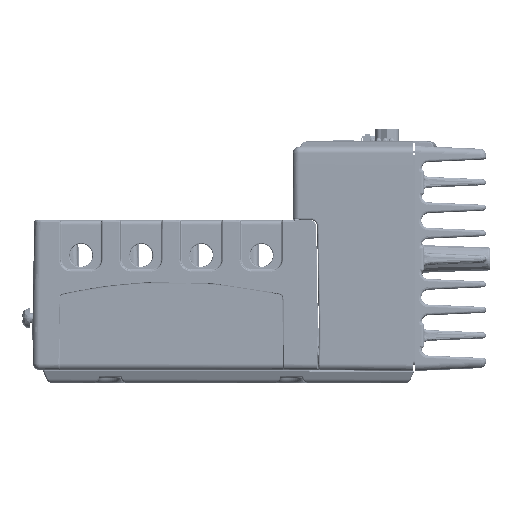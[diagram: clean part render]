
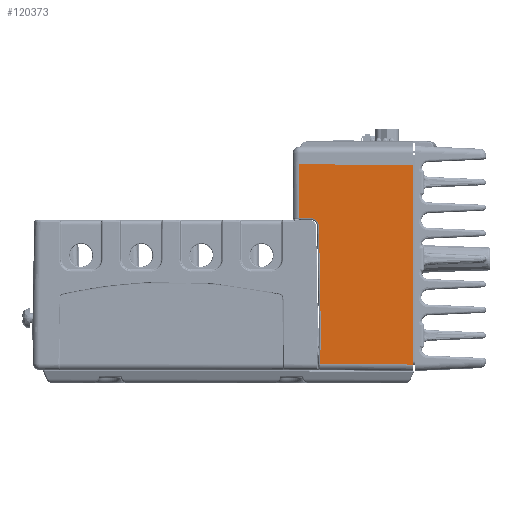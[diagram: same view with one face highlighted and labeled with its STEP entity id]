
A CAD part, left-side view. The second image highlights one B-rep face of the part: STEP entity #120373.
In plain terms, the highlighted planar face has unit normal (-1, 0.009, 0).
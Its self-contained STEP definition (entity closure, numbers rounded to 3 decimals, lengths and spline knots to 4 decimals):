
#3561=CARTESIAN_POINT('',(-1.7191,-1.9761,
2.3507));
#3601=DIRECTION('',(-0.009,-1.,-0.009));
#3602=VECTOR('',#3601,0.1807);
#3603=CARTESIAN_POINT('',(-1.7191,-1.9761,
2.3507));
#3604=LINE('',#3603,#3602);
#3605=DIRECTION('',(0.009,1.,0.009));
#3606=VECTOR('',#3605,1.768);
#3607=CARTESIAN_POINT('',(-1.7345,-3.744,3.1687));
#3608=LINE('',#3607,#3606);
#3609=DIRECTION('',(0.,0.,-1.));
#3610=VECTOR('',#3609,3.0837);
#3611=CARTESIAN_POINT('',(-1.7345,-3.744,3.1687));
#3612=LINE('',#3611,#3610);
#3631=DIRECTION('',(0.,0.,-1.));
#3632=VECTOR('',#3631,0.8334);
#3633=CARTESIAN_POINT('',(-1.7191,-1.9761,
3.1841));
#3634=LINE('',#3633,#3632);
#3691=DIRECTION('',(-0.009,-1.,-0.009));
#3692=VECTOR('',#3691,1.4393);
#3693=CARTESIAN_POINT('',(-1.7219,-2.3048,
0.0976));
#3694=LINE('',#3693,#3692);
#3695=CARTESIAN_POINT('',(-1.7345,-3.744,0.085));
#3819=DIRECTION('',(0.,0.017,-1.));
#3820=VECTOR('',#3819,0.5145);
#3821=CARTESIAN_POINT('',(-1.722,-2.3137,0.612));
#3822=LINE('',#3821,#3820);
#3845=DIRECTION('',(0.,-0.017,-1.));
#3846=VECTOR('',#3845,1.6096);
#3847=CARTESIAN_POINT('',(-1.7218,-2.2857,
2.2214));
#3848=LINE('',#3847,#3846);
#66235=CARTESIAN_POINT('',(-1.7206,-2.1568,
2.3491));
#66236=CARTESIAN_POINT('',(-1.7207,-2.1585,
2.3491));
#66237=CARTESIAN_POINT('',(-1.7207,-2.1619,
2.349));
#66238=CARTESIAN_POINT('',(-1.7207,-2.1671,
2.3486));
#66239=CARTESIAN_POINT('',(-1.7208,-2.1722,
2.3481));
#66240=CARTESIAN_POINT('',(-1.7208,-2.1773,
2.3473));
#66241=CARTESIAN_POINT('',(-1.7209,-2.1823,
2.3464));
#66242=CARTESIAN_POINT('',(-1.7209,-2.1874,
2.3452));
#66243=CARTESIAN_POINT('',(-1.721,-2.1923,
2.3439));
#66244=CARTESIAN_POINT('',(-1.721,-2.1972,
2.3423));
#66245=CARTESIAN_POINT('',(-1.721,-2.2021,
2.3406));
#66246=CARTESIAN_POINT('',(-1.7211,-2.2069,
2.3386));
#66247=CARTESIAN_POINT('',(-1.7211,-2.2116,
2.3365));
#66248=CARTESIAN_POINT('',(-1.7212,-2.2162,
2.3342));
#66249=CARTESIAN_POINT('',(-1.7212,-2.2207,
2.3317));
#66250=CARTESIAN_POINT('',(-1.7212,-2.2251,
2.3291));
#66251=CARTESIAN_POINT('',(-1.7213,-2.2294,
2.3262));
#66252=CARTESIAN_POINT('',(-1.7213,-2.2336,
2.3232));
#66253=CARTESIAN_POINT('',(-1.7214,-2.2376,
2.3201));
#66254=CARTESIAN_POINT('',(-1.7214,-2.2416,
2.3167));
#66255=CARTESIAN_POINT('',(-1.7214,-2.2454,
2.3133));
#66256=CARTESIAN_POINT('',(-1.7215,-2.249,
2.3096));
#66257=CARTESIAN_POINT('',(-1.7215,-2.2525,
2.3059));
#66258=CARTESIAN_POINT('',(-1.7215,-2.2559,
2.302));
#66259=CARTESIAN_POINT('',(-1.7215,-2.2591,
2.2979));
#66260=CARTESIAN_POINT('',(-1.7216,-2.2621,
2.2938));
#66261=CARTESIAN_POINT('',(-1.7216,-2.265,
2.2895));
#66262=CARTESIAN_POINT('',(-1.7216,-2.2677,
2.2851));
#66263=CARTESIAN_POINT('',(-1.7216,-2.2702,
2.2806));
#66264=CARTESIAN_POINT('',(-1.7217,-2.2726,
2.276));
#66265=CARTESIAN_POINT('',(-1.7217,-2.2747,
2.2714));
#66266=CARTESIAN_POINT('',(-1.7217,-2.2767,
2.2666));
#66267=CARTESIAN_POINT('',(-1.7217,-2.2785,
2.2618));
#66268=CARTESIAN_POINT('',(-1.7217,-2.2801,
2.2569));
#66269=CARTESIAN_POINT('',(-1.7217,-2.2815,
2.2519));
#66270=CARTESIAN_POINT('',(-1.7217,-2.2827,
2.2469));
#66271=CARTESIAN_POINT('',(-1.7218,-2.2837,
2.2418));
#66272=CARTESIAN_POINT('',(-1.7218,-2.2845,
2.2368));
#66273=CARTESIAN_POINT('',(-1.7218,-2.2851,
2.2316));
#66274=CARTESIAN_POINT('',(-1.7218,-2.2855,
2.2265));
#66275=CARTESIAN_POINT('',(-1.7218,-2.2856,
2.2231));
#66276=CARTESIAN_POINT('',(-1.7218,-2.2857,
2.2214));
#112077=VERTEX_POINT('',#3695);
#112105=CARTESIAN_POINT('',(-1.7345,-3.744,3.1687));
#112106=VERTEX_POINT('',#112105);
#112127=CARTESIAN_POINT('',(-1.7191,-1.9761,
3.1841));
#112128=VERTEX_POINT('',#112127);
#112640=VERTEX_POINT('',#3561);
#112641=CARTESIAN_POINT('',(-1.7206,-2.1568,
2.3491));
#112642=VERTEX_POINT('',#112641);
#112643=VERTEX_POINT('',#66276);
#112648=CARTESIAN_POINT('',(-1.722,-2.3137,0.612));
#112649=VERTEX_POINT('',#112648);
#112650=CARTESIAN_POINT('',(-1.7219,-2.3048,
0.0976));
#112651=VERTEX_POINT('',#112650);
#120352=CARTESIAN_POINT('',(-1.7345,-3.744,-0.1016));
#120353=DIRECTION('',(1.,-0.009,0.));
#120354=DIRECTION('',(0.,0.,1.));
#120355=AXIS2_PLACEMENT_3D('',#120352,#120353,#120354);
#120356=PLANE('',#120355);
#120357=ORIENTED_EDGE('',*,*,#120343,.F.);
#120359=ORIENTED_EDGE('',*,*,#120358,.F.);
#120361=ORIENTED_EDGE('',*,*,#120360,.F.);
#120362=ORIENTED_EDGE('',*,*,#119410,.T.);
#120364=ORIENTED_EDGE('',*,*,#120363,.F.);
#120366=ORIENTED_EDGE('',*,*,#120365,.F.);
#120368=ORIENTED_EDGE('',*,*,#120367,.F.);
#120370=ORIENTED_EDGE('',*,*,#120369,.F.);
#120371=EDGE_LOOP('',(#120357,#120359,#120361,#120362,#120364,#120366,#120368,
#120370));
#120372=FACE_OUTER_BOUND('',#120371,.F.);
#120373=ADVANCED_FACE('',(#120372),#120356,.F.);
#66277=B_SPLINE_CURVE_WITH_KNOTS('',3,(#66235,#66236,#66237,#66238,#66239,
#66240,#66241,#66242,#66243,#66244,#66245,#66246,#66247,#66248,#66249,#66250,
#66251,#66252,#66253,#66254,#66255,#66256,#66257,#66258,#66259,#66260,#66261,
#66262,#66263,#66264,#66265,#66266,#66267,#66268,#66269,#66270,#66271,#66272,
#66273,#66274,#66275,#66276),.UNSPECIFIED.,.F.,.F.,(4,1,1,1,1,1,1,1,1,1,1,1,1,1,
1,1,1,1,1,1,1,1,1,1,1,1,1,1,1,1,1,1,1,1,1,1,1,1,1,4),(0.,0.0256,
0.0513,0.0769,0.1026,0.1282,
0.1538,0.1795,0.2051,0.2308,
0.2564,0.2821,0.3077,0.3333,
0.359,0.3846,0.4103,0.4359,
0.4615,0.4872,0.5128,0.5385,
0.5641,0.5897,0.6154,0.641,
0.6667,0.6923,0.7179,0.7436,
0.7692,0.7949,0.8205,0.8462,
0.8718,0.8974,0.9231,0.9487,
0.9744,1.),.UNSPECIFIED.);
#119410=EDGE_CURVE('',#112106,#112077,#3612,.T.);
#120343=EDGE_CURVE('',#112640,#112642,#3604,.T.);
#120358=EDGE_CURVE('',#112128,#112640,#3634,.T.);
#120360=EDGE_CURVE('',#112106,#112128,#3608,.T.);
#120363=EDGE_CURVE('',#112651,#112077,#3694,.T.);
#120365=EDGE_CURVE('',#112649,#112651,#3822,.T.);
#120367=EDGE_CURVE('',#112643,#112649,#3848,.T.);
#120369=EDGE_CURVE('',#112642,#112643,#66277,.T.);
